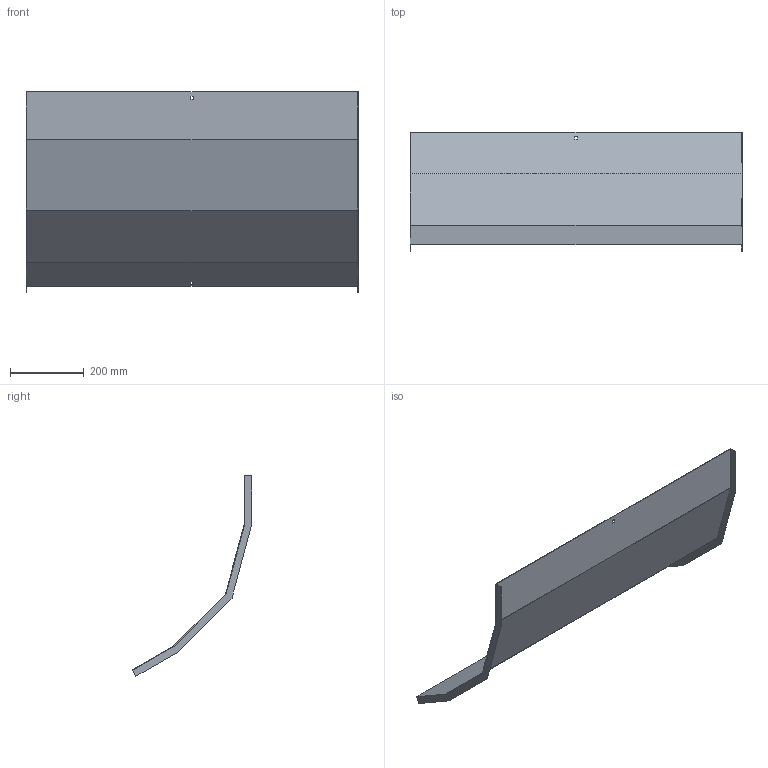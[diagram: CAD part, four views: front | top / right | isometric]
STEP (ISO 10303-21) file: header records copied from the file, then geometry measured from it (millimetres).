
FILE_DESCRIPTION (( 'STEP AP214' ), '1' );
FILE_NAME ('40N5R900_H150.step', '2025-02-21T14:29:26', ( '' ), ( '' ), 'SwSTEP 2.0', 'SolidWorks 2023', '' );
FILE_SCHEMA (( 'AUTOMOTIVE_DESIGN' ));
Length unit declared in the file: millimetre
Products named in the file (1): 40N5R900_H150
Bounding box: 903 x 324.8 x 545.25 mm (x, y, z)
Volume: 929317.8 mm3; surface area: 1244038.8 mm2
Topology: 1 solids, 1 shells, 30 faces, 84 edges, 56 vertices
Faces by surface type: plane 30
Entity records: 979 total; most frequent: CARTESIAN_POINT 171, ORIENTED_EDGE 168, DIRECTION 146, VECTOR 84, EDGE_CURVE 84, LINE 84, VERTEX_POINT 56, EDGE_LOOP 34
